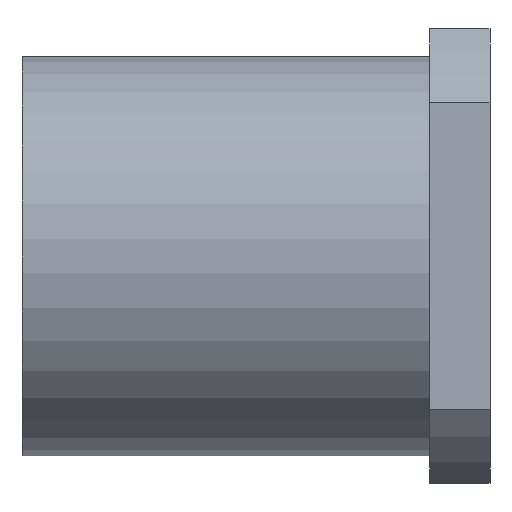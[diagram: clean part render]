
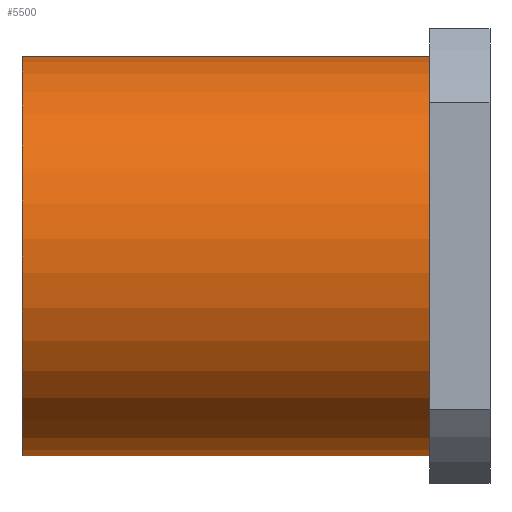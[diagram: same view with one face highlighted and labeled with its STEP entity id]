
A CAD part, front view. The second image highlights one B-rep face of the part: STEP entity #5500.
In plain terms, the highlighted cylindrical face has radius 60 mm (diameter 120 mm), a full revolution.
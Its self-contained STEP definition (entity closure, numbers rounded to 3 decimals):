
#85=CYLINDRICAL_SURFACE('',#5858,60.);
#118=CIRCLE('',#5859,60.);
#119=CIRCLE('',#5860,60.);
#1669=ORIENTED_EDGE('',*,*,#3250,.T.);
#1670=ORIENTED_EDGE('',*,*,#3251,.T.);
#3250=EDGE_CURVE('',#4039,#4039,#118,.T.);
#3251=EDGE_CURVE('',#4040,#4040,#119,.F.);
#4039=VERTEX_POINT('',#8735);
#4040=VERTEX_POINT('',#8737);
#4495=EDGE_LOOP('',(#1669));
#4496=EDGE_LOOP('',(#1670));
#4897=FACE_BOUND('',#4495,.T.);
#4898=FACE_BOUND('',#4496,.T.);
#5500=ADVANCED_FACE('',(#4897,#4898),#85,.T.);
#5858=AXIS2_PLACEMENT_3D('',#8733,#6374,#6375);
#5859=AXIS2_PLACEMENT_3D('',#8734,#6376,#6377);
#5860=AXIS2_PLACEMENT_3D('',#8736,#6378,#6379);
#6374=DIRECTION('',(1.,0.,0.));
#6375=DIRECTION('',(0.,0.707,-0.707));
#6376=DIRECTION('',(1.,0.,0.));
#6377=DIRECTION('',(0.,0.707,-0.707));
#6378=DIRECTION('',(1.,0.,0.));
#6379=DIRECTION('',(0.,0.707,-0.707));
#8733=CARTESIAN_POINT('',(-70.,0.,0.));
#8734=CARTESIAN_POINT('',(-70.,0.,0.));
#8735=CARTESIAN_POINT('',(-70.,42.426,-42.426));
#8736=CARTESIAN_POINT('',(52.,0.,0.));
#8737=CARTESIAN_POINT('',(52.,42.426,-42.426));
